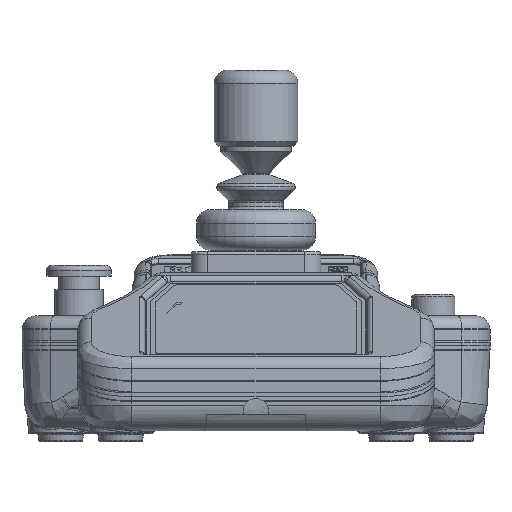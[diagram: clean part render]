
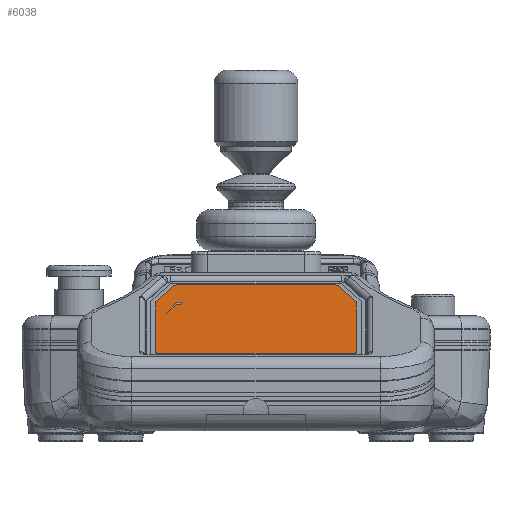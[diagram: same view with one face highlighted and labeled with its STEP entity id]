
A CAD part, front view. The second image highlights one B-rep face of the part: STEP entity #6038.
In plain terms, the highlighted planar face has unit normal (0, -0.342, 0.94).
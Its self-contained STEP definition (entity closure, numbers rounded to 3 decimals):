
#1992=FACE_BOUND('',#8488,.T.);
#1993=FACE_BOUND('',#8489,.T.);
#2238=(
BOUNDED_CURVE()
B_SPLINE_CURVE(3,(#25186,#25187,#25188,#25189,#25190,#25191),
 .UNSPECIFIED.,.F.,.F.)
B_SPLINE_CURVE_WITH_KNOTS((4,2,4),(0.,0.5,1.),.UNSPECIFIED.)
CURVE()
GEOMETRIC_REPRESENTATION_ITEM()
RATIONAL_B_SPLINE_CURVE((1.071,0.986,0.943,
0.943,0.986,1.071))
REPRESENTATION_ITEM('')
);
#2239=(
BOUNDED_CURVE()
B_SPLINE_CURVE(1,(#25193,#25194),.UNSPECIFIED.,.F.,.F.)
B_SPLINE_CURVE_WITH_KNOTS((2,2),(0.,1.),.UNSPECIFIED.)
CURVE()
GEOMETRIC_REPRESENTATION_ITEM()
RATIONAL_B_SPLINE_CURVE((1.,1.071))
REPRESENTATION_ITEM('')
);
#2283=B_SPLINE_CURVE_WITH_KNOTS('',3,(#25174,#25175,#25176,#25177,#25178,
#25179),.UNSPECIFIED.,.F.,.F.,(4,2,4),(0.,0.5,1.),.UNSPECIFIED.);
#2890=LINE('',#25182,#3949);
#2891=LINE('',#25184,#3950);
#3661=LINE('',#34397,#4721);
#3662=LINE('',#34401,#4722);
#3663=LINE('',#34405,#4723);
#3664=LINE('',#34409,#4724);
#3665=LINE('',#34413,#4725);
#3666=LINE('',#34417,#4726);
#3949=VECTOR('',#20667,1.);
#3950=VECTOR('',#20668,1.);
#4721=VECTOR('',#23757,1.);
#4722=VECTOR('',#23760,1.);
#4723=VECTOR('',#23763,1.);
#4724=VECTOR('',#23766,1.);
#4725=VECTOR('',#23769,1.);
#4726=VECTOR('',#23772,1.);
#6038=ADVANCED_FACE('',(#1992,#1993),#6362,.T.);
#6362=PLANE('',#20617);
#8488=EDGE_LOOP('',(#13697,#13698,#13699,#13700,#13701,#13702,#13703,#13704,
#13705,#13706,#13707,#13708));
#8489=EDGE_LOOP('',(#13709,#13710,#13711,#13712,#13713));
#13697=ORIENTED_EDGE('',*,*,#17475,.F.);
#13698=ORIENTED_EDGE('',*,*,#17474,.F.);
#13699=ORIENTED_EDGE('',*,*,#17473,.F.);
#13700=ORIENTED_EDGE('',*,*,#17472,.F.);
#13701=ORIENTED_EDGE('',*,*,#17471,.F.);
#13702=ORIENTED_EDGE('',*,*,#17470,.F.);
#13703=ORIENTED_EDGE('',*,*,#17469,.F.);
#13704=ORIENTED_EDGE('',*,*,#17468,.F.);
#13705=ORIENTED_EDGE('',*,*,#17467,.F.);
#13706=ORIENTED_EDGE('',*,*,#17466,.F.);
#13707=ORIENTED_EDGE('',*,*,#17465,.F.);
#13708=ORIENTED_EDGE('',*,*,#17464,.F.);
#13709=ORIENTED_EDGE('',*,*,#15530,.T.);
#13710=ORIENTED_EDGE('',*,*,#15529,.T.);
#13711=ORIENTED_EDGE('',*,*,#15528,.T.);
#13712=ORIENTED_EDGE('',*,*,#15527,.T.);
#13713=ORIENTED_EDGE('',*,*,#15531,.T.);
#13736=VERTEX_POINT('',#25180);
#13737=VERTEX_POINT('',#25181);
#13738=VERTEX_POINT('',#25183);
#13739=VERTEX_POINT('',#25185);
#13740=VERTEX_POINT('',#25192);
#15128=VERTEX_POINT('',#34395);
#15129=VERTEX_POINT('',#34396);
#15130=VERTEX_POINT('',#34398);
#15131=VERTEX_POINT('',#34400);
#15132=VERTEX_POINT('',#34402);
#15133=VERTEX_POINT('',#34404);
#15134=VERTEX_POINT('',#34406);
#15135=VERTEX_POINT('',#34408);
#15136=VERTEX_POINT('',#34410);
#15137=VERTEX_POINT('',#34412);
#15138=VERTEX_POINT('',#34414);
#15139=VERTEX_POINT('',#34416);
#15527=EDGE_CURVE('',#13736,#13737,#2283,.T.);
#15528=EDGE_CURVE('',#13738,#13736,#2890,.T.);
#15529=EDGE_CURVE('',#13739,#13738,#2891,.T.);
#15530=EDGE_CURVE('',#13740,#13739,#2238,.T.);
#15531=EDGE_CURVE('',#13737,#13740,#2239,.T.);
#17464=EDGE_CURVE('',#15128,#15129,#18685,.T.);
#17465=EDGE_CURVE('',#15129,#15130,#3661,.T.);
#17466=EDGE_CURVE('',#15130,#15131,#18686,.T.);
#17467=EDGE_CURVE('',#15131,#15132,#3662,.T.);
#17468=EDGE_CURVE('',#15132,#15133,#18687,.T.);
#17469=EDGE_CURVE('',#15133,#15134,#3663,.T.);
#17470=EDGE_CURVE('',#15134,#15135,#18688,.T.);
#17471=EDGE_CURVE('',#15135,#15136,#3664,.T.);
#17472=EDGE_CURVE('',#15136,#15137,#18689,.T.);
#17473=EDGE_CURVE('',#15137,#15138,#3665,.T.);
#17474=EDGE_CURVE('',#15138,#15139,#18690,.T.);
#17475=EDGE_CURVE('',#15139,#15128,#3666,.T.);
#18685=CIRCLE('',#20106,1.);
#18686=CIRCLE('',#20107,1.);
#18687=CIRCLE('',#20108,1.);
#18688=CIRCLE('',#20109,1.);
#18689=CIRCLE('',#20110,1.);
#18690=CIRCLE('',#20111,1.);
#20106=AXIS2_PLACEMENT_3D('',#34394,#23755,#23756);
#20107=AXIS2_PLACEMENT_3D('',#34399,#23758,#23759);
#20108=AXIS2_PLACEMENT_3D('',#34403,#23761,#23762);
#20109=AXIS2_PLACEMENT_3D('',#34407,#23764,#23765);
#20110=AXIS2_PLACEMENT_3D('',#34411,#23767,#23768);
#20111=AXIS2_PLACEMENT_3D('',#34415,#23770,#23771);
#20617=AXIS2_PLACEMENT_3D('',#37217,#25063,#25064);
#20667=DIRECTION('',(0.288,0.9,0.328));
#20668=DIRECTION('',(-0.34,-0.884,-0.322));
#23755=DIRECTION('',(0.,0.342,-0.94));
#23756=DIRECTION('',(1.,0.,0.));
#23757=DIRECTION('',(0.,0.94,0.342));
#23758=DIRECTION('',(0.,0.342,-0.94));
#23759=DIRECTION('',(1.,0.,0.));
#23760=DIRECTION('',(0.356,0.878,0.32));
#23761=DIRECTION('',(0.,0.342,-0.94));
#23762=DIRECTION('',(1.,0.,0.));
#23763=DIRECTION('',(1.,0.,0.));
#23764=DIRECTION('',(0.,0.342,-0.94));
#23765=DIRECTION('',(1.,0.,0.));
#23766=DIRECTION('',(0.356,-0.878,-0.32));
#23767=DIRECTION('',(0.,0.342,-0.94));
#23768=DIRECTION('',(1.,0.,0.));
#23769=DIRECTION('',(0.,-0.94,-0.342));
#23770=DIRECTION('',(0.,0.342,-0.94));
#23771=DIRECTION('',(1.,0.,0.));
#23772=DIRECTION('',(-1.,0.,0.));
#25063=DIRECTION('',(0.,-0.342,0.94));
#25064=DIRECTION('',(1.,0.,0.));
#25174=CARTESIAN_POINT('',(-29.451,-57.999,-11.066));
#25175=CARTESIAN_POINT('',(-29.426,-57.921,-11.038));
#25176=CARTESIAN_POINT('',(-29.174,-57.846,-11.01));
#25177=CARTESIAN_POINT('',(-28.38,-57.744,-10.973));
#25178=CARTESIAN_POINT('',(-27.843,-57.719,-10.964));
#25179=CARTESIAN_POINT('',(-27.31,-57.719,-10.964));
#25180=CARTESIAN_POINT('',(-29.451,-57.999,-11.066));
#25181=CARTESIAN_POINT('',(-27.31,-57.719,-10.964));
#25182=CARTESIAN_POINT('',(-24.04,-41.081,-4.909));
#25183=CARTESIAN_POINT('',(-32.982,-69.037,-15.084));
#25184=CARTESIAN_POINT('',(-22.561,-41.971,-5.233));
#25185=CARTESIAN_POINT('',(-29.509,-60.018,-11.801));
#25186=CARTESIAN_POINT('',(-27.736,-59.784,-11.716));
#25187=CARTESIAN_POINT('',(-28.203,-59.791,-11.719));
#25188=CARTESIAN_POINT('',(-28.636,-59.817,-11.728));
#25189=CARTESIAN_POINT('',(-29.307,-59.906,-11.76));
#25190=CARTESIAN_POINT('',(-29.487,-59.96,-11.78));
#25191=CARTESIAN_POINT('',(-29.509,-60.018,-11.801));
#25192=CARTESIAN_POINT('',(-27.736,-59.784,-11.716));
#25193=CARTESIAN_POINT('',(-27.31,-57.719,-10.964));
#25194=CARTESIAN_POINT('',(-27.736,-59.784,-11.716));
#34394=CARTESIAN_POINT('',(-36.,-108.715,-29.525));
#34395=CARTESIAN_POINT('',(-36.,-109.655,-29.868));
#34396=CARTESIAN_POINT('',(-37.,-108.715,-29.525));
#34397=CARTESIAN_POINT('',(-37.,-108.715,-29.525));
#34398=CARTESIAN_POINT('',(-37.,-57.341,-10.827));
#34399=CARTESIAN_POINT('',(-36.,-57.341,-10.827));
#34400=CARTESIAN_POINT('',(-36.934,-57.006,-10.705));
#34401=CARTESIAN_POINT('',(-36.934,-57.006,-10.705));
#34402=CARTESIAN_POINT('',(-30.333,-40.723,-4.778));
#34403=CARTESIAN_POINT('',(-29.399,-41.058,-4.9));
#34404=CARTESIAN_POINT('',(-29.399,-40.118,-4.558));
#34405=CARTESIAN_POINT('',(-29.399,-40.118,-4.558));
#34406=CARTESIAN_POINT('',(29.399,-40.118,-4.558));
#34407=CARTESIAN_POINT('',(29.399,-41.058,-4.9));
#34408=CARTESIAN_POINT('',(30.333,-40.723,-4.778));
#34409=CARTESIAN_POINT('',(30.333,-40.723,-4.778));
#34410=CARTESIAN_POINT('',(36.935,-57.006,-10.705));
#34411=CARTESIAN_POINT('',(36.,-57.341,-10.827));
#34412=CARTESIAN_POINT('',(37.,-57.341,-10.827));
#34413=CARTESIAN_POINT('',(37.,-57.341,-10.827));
#34414=CARTESIAN_POINT('',(37.,-108.715,-29.525));
#34415=CARTESIAN_POINT('',(36.,-108.715,-29.525));
#34416=CARTESIAN_POINT('',(36.,-109.655,-29.868));
#34417=CARTESIAN_POINT('',(36.,-109.655,-29.868));
#37217=CARTESIAN_POINT('',(-30.777,-39.178,-4.216));
